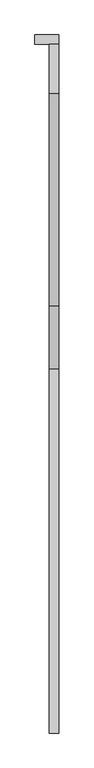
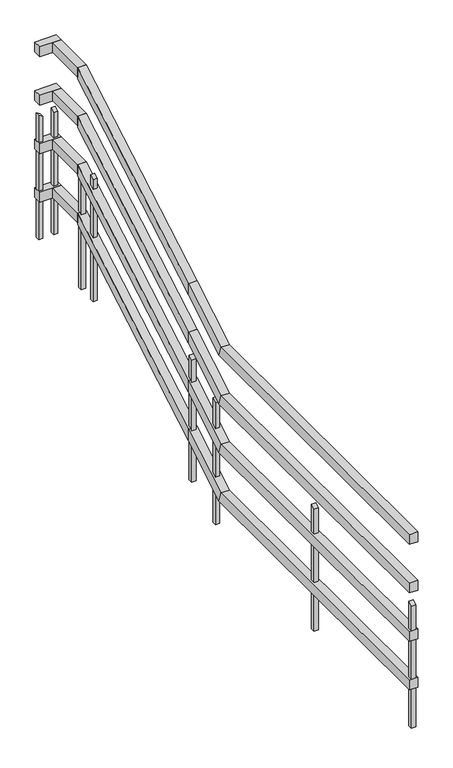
"""IFC4 building model written with IfcOpenShell, lengths in millimetres: railing geometry, RL780-금속재 난간."""

from ifc_helpers import new_model, si_unit, frame, origin, place, context, project, spatial, polyline, outline, extrude, faceted_brep, source, transform, mapped, element, save


def railing_fc631ef0(model_context):
    return source(origin(), model_context, "Body", "SolidModel", [
        faceted_brep([(1375.2430136, 1560.0, 1150.0), (1375.2430136, 1560.0, 1090.0), (1425.2430136, 1560.0, 1090.0), (1425.2430136, 1560.0, 1150.0), (1375.2430136, 3470.0, 1150.0), (1375.2430136, 3486.2899034, 1090.0), (1425.2430136, 3486.2899034, 1090.0), (1425.2430136, 3470.0, 1150.0), (1375.2430136, 3800.0, 1343.4482759), (1425.2430136, 3800.0, 1343.4482759), (1425.2430136, 3800.0, 1273.8990221), (1375.2430136, 3800.0, 1273.8990221)], [[[0, 1, 2, 3]], [[1, 0, 4, 5]], [[2, 1, 5, 6]], [[3, 2, 6, 7]], [[0, 3, 7, 4]], [[8, 9, 10, 11]], [[5, 4, 8, 11]], [[6, 5, 11, 10]], [[7, 6, 10, 9]], [[4, 7, 9, 8]]]),
        faceted_brep([(1375.2430136, 3800.0, 1343.4482759), (1375.2430136, 3800.0, 1273.8990221), (1425.2430136, 3800.0, 1273.8990221), (1425.2430136, 3800.0, 1343.4482759), (1375.2430136, 4920.0, 2000.0), (1425.2430136, 4920.0, 2000.0), (1425.2430136, 4920.0, 1930.4507463), (1375.2430136, 4920.0, 1930.4507463)], [[[0, 1, 2, 3]], [[4, 5, 6, 7]], [[1, 0, 4, 7]], [[2, 1, 7, 6]], [[3, 2, 6, 5]], [[0, 3, 5, 4]]]),
        faceted_brep([(1375.2430136, 4920.0, 2000.0), (1375.2430136, 4920.0, 1940.0), (1425.2430136, 4920.0, 1940.0), (1425.2430136, 4920.0, 2000.0), (1375.2430136, 5175.0, 2000.0), (1425.2430136, 5175.0, 2000.0), (1425.2430136, 5175.0, 1940.0), (1375.2430136, 5175.0, 1940.0)], [[[0, 1, 2, 3]], [[4, 5, 6, 7]], [[1, 0, 4, 7]], [[2, 1, 7, 6]], [[3, 2, 6, 5]], [[0, 3, 5, 4]]]),
        faceted_brep([(1425.2430136, 5175.0, 2000.0), (1425.2430136, 5175.0, 1940.0), (1425.2430136, 5225.0, 1940.0), (1425.2430136, 5225.0, 2000.0), (1299.7569864, 5175.0, 2000.0), (1299.7569864, 5225.0, 2000.0), (1299.7569864, 5225.0, 1940.0), (1299.7569864, 5175.0, 1940.0)], [[[0, 1, 2, 3]], [[4, 5, 6, 7]], [[1, 0, 4, 7]], [[2, 1, 7, 6]], [[3, 2, 6, 5]], [[0, 3, 5, 4]]]),
        faceted_brep([(1375.2430136, 1560.0, 850.0), (1375.2430136, 1560.0, 790.0), (1425.2430136, 1560.0, 790.0), (1425.2430136, 1560.0, 850.0), (1375.2430136, 3470.0, 850.0), (1375.2430136, 3486.2899034, 790.0), (1425.2430136, 3486.2899034, 790.0), (1425.2430136, 3470.0, 850.0), (1375.2430136, 3800.0, 1043.4482759), (1425.2430136, 3800.0, 1043.4482759), (1425.2430136, 3800.0, 973.8990221), (1375.2430136, 3800.0, 973.8990221)], [[[0, 1, 2, 3]], [[1, 0, 4, 5]], [[2, 1, 5, 6]], [[3, 2, 6, 7]], [[0, 3, 7, 4]], [[8, 9, 10, 11]], [[5, 4, 8, 11]], [[6, 5, 11, 10]], [[7, 6, 10, 9]], [[4, 7, 9, 8]]]),
        faceted_brep([(1375.2430136, 3800.0, 1043.4482759), (1375.2430136, 3800.0, 973.8990221), (1425.2430136, 3800.0, 973.8990221), (1425.2430136, 3800.0, 1043.4482759), (1375.2430136, 4920.0, 1700.0), (1425.2430136, 4920.0, 1700.0), (1425.2430136, 4920.0, 1630.4507463), (1375.2430136, 4920.0, 1630.4507463)], [[[0, 1, 2, 3]], [[4, 5, 6, 7]], [[1, 0, 4, 7]], [[2, 1, 7, 6]], [[3, 2, 6, 5]], [[0, 3, 5, 4]]]),
        faceted_brep([(1375.2430136, 4920.0, 1700.0), (1375.2430136, 4920.0, 1640.0), (1425.2430136, 4920.0, 1640.0), (1425.2430136, 4920.0, 1700.0), (1375.2430136, 5175.0, 1700.0), (1425.2430136, 5175.0, 1700.0), (1425.2430136, 5175.0, 1640.0), (1375.2430136, 5175.0, 1640.0)], [[[0, 1, 2, 3]], [[4, 5, 6, 7]], [[1, 0, 4, 7]], [[2, 1, 7, 6]], [[3, 2, 6, 5]], [[0, 3, 5, 4]]]),
        faceted_brep([(1425.2430136, 5175.0, 1700.0), (1425.2430136, 5175.0, 1640.0), (1425.2430136, 5225.0, 1640.0), (1425.2430136, 5225.0, 1700.0), (1299.7569864, 5175.0, 1700.0), (1299.7569864, 5225.0, 1700.0), (1299.7569864, 5225.0, 1640.0), (1299.7569864, 5175.0, 1640.0)], [[[0, 1, 2, 3]], [[4, 5, 6, 7]], [[1, 0, 4, 7]], [[2, 1, 7, 6]], [[3, 2, 6, 5]], [[0, 3, 5, 4]]]),
        faceted_brep([(1375.2430136, 1560.0, 550.0), (1375.2430136, 1560.0, 490.0), (1425.2430136, 1560.0, 490.0), (1425.2430136, 1560.0, 550.0), (1375.2430136, 3470.0, 550.0), (1375.2430136, 3486.2899034, 490.0), (1425.2430136, 3486.2899034, 490.0), (1425.2430136, 3470.0, 550.0), (1375.2430136, 3800.0, 743.4482759), (1425.2430136, 3800.0, 743.4482759), (1425.2430136, 3800.0, 673.8990221), (1375.2430136, 3800.0, 673.8990221)], [[[0, 1, 2, 3]], [[1, 0, 4, 5]], [[2, 1, 5, 6]], [[3, 2, 6, 7]], [[0, 3, 7, 4]], [[8, 9, 10, 11]], [[5, 4, 8, 11]], [[6, 5, 11, 10]], [[7, 6, 10, 9]], [[4, 7, 9, 8]]]),
        faceted_brep([(1375.2430136, 3800.0, 743.4482759), (1375.2430136, 3800.0, 673.8990221), (1425.2430136, 3800.0, 673.8990221), (1425.2430136, 3800.0, 743.4482759), (1375.2430136, 4920.0, 1400.0), (1425.2430136, 4920.0, 1400.0), (1425.2430136, 4920.0, 1330.4507463), (1375.2430136, 4920.0, 1330.4507463)], [[[0, 1, 2, 3]], [[4, 5, 6, 7]], [[1, 0, 4, 7]], [[2, 1, 7, 6]], [[3, 2, 6, 5]], [[0, 3, 5, 4]]]),
        faceted_brep([(1375.2430136, 4920.0, 1400.0), (1375.2430136, 4920.0, 1340.0), (1425.2430136, 4920.0, 1340.0), (1425.2430136, 4920.0, 1400.0), (1375.2430136, 5175.0, 1400.0), (1425.2430136, 5175.0, 1400.0), (1425.2430136, 5175.0, 1340.0), (1375.2430136, 5175.0, 1340.0)], [[[0, 1, 2, 3]], [[4, 5, 6, 7]], [[1, 0, 4, 7]], [[2, 1, 7, 6]], [[3, 2, 6, 5]], [[0, 3, 5, 4]]]),
        faceted_brep([(1425.2430136, 5175.0, 1400.0), (1425.2430136, 5175.0, 1340.0), (1425.2430136, 5225.0, 1340.0), (1425.2430136, 5225.0, 1400.0), (1299.7569864, 5175.0, 1400.0), (1299.7569864, 5225.0, 1400.0), (1299.7569864, 5225.0, 1340.0), (1299.7569864, 5175.0, 1340.0)], [[[0, 1, 2, 3]], [[4, 5, 6, 7]], [[1, 0, 4, 7]], [[2, 1, 7, 6]], [[3, 2, 6, 5]], [[0, 3, 5, 4]]]),
        faceted_brep([(1375.2430136, 1560.0, 250.0), (1375.2430136, 1560.0, 190.0), (1425.2430136, 1560.0, 190.0), (1425.2430136, 1560.0, 250.0), (1375.2430136, 3470.0, 250.0), (1375.2430136, 3486.2899034, 190.0), (1425.2430136, 3486.2899034, 190.0), (1425.2430136, 3470.0, 250.0), (1375.2430136, 3800.0, 443.4482759), (1425.2430136, 3800.0, 443.4482759), (1425.2430136, 3800.0, 373.8990221), (1375.2430136, 3800.0, 373.8990221)], [[[0, 1, 2, 3]], [[1, 0, 4, 5]], [[2, 1, 5, 6]], [[3, 2, 6, 7]], [[0, 3, 7, 4]], [[8, 9, 10, 11]], [[5, 4, 8, 11]], [[6, 5, 11, 10]], [[7, 6, 10, 9]], [[4, 7, 9, 8]]]),
        faceted_brep([(1375.2430136, 3800.0, 443.4482759), (1375.2430136, 3800.0, 373.8990221), (1425.2430136, 3800.0, 373.8990221), (1425.2430136, 3800.0, 443.4482759), (1375.2430136, 4920.0, 1100.0), (1425.2430136, 4920.0, 1100.0), (1425.2430136, 4920.0, 1030.4507463), (1375.2430136, 4920.0, 1030.4507463)], [[[0, 1, 2, 3]], [[4, 5, 6, 7]], [[1, 0, 4, 7]], [[2, 1, 7, 6]], [[3, 2, 6, 5]], [[0, 3, 5, 4]]]),
        faceted_brep([(1375.2430136, 4920.0, 1100.0), (1375.2430136, 4920.0, 1040.0), (1425.2430136, 4920.0, 1040.0), (1425.2430136, 4920.0, 1100.0), (1375.2430136, 5175.0, 1100.0), (1425.2430136, 5175.0, 1100.0), (1425.2430136, 5175.0, 1040.0), (1375.2430136, 5175.0, 1040.0)], [[[0, 1, 2, 3]], [[4, 5, 6, 7]], [[1, 0, 4, 7]], [[2, 1, 7, 6]], [[3, 2, 6, 5]], [[0, 3, 5, 4]]]),
        faceted_brep([(1425.2430136, 5175.0, 1100.0), (1425.2430136, 5175.0, 1040.0), (1425.2430136, 5225.0, 1040.0), (1425.2430136, 5225.0, 1100.0), (1299.7569864, 5175.0, 1100.0), (1299.7569864, 5225.0, 1100.0), (1299.7569864, 5225.0, 1040.0), (1299.7569864, 5175.0, 1040.0)], [[[0, 1, 2, 3]], [[4, 5, 6, 7]], [[1, 0, 4, 7]], [[2, 1, 7, 6]], [[3, 2, 6, 5]], [[0, 3, 5, 4]]]),
        extrude(outline(polyline([(4787.5, 1384.04582), (4812.5, 1399.95418), (4812.5, 630.0), (4787.5, 630.0), (4787.5, 1384.04582)])), frame((1387.7430136, 0.0, 0.0), z_axis=(1.0, 0.0, 0.0), x_axis=(0.0, 1.0, 0.0)), (0.0, 0.0, 1.0), 25.0),
        extrude(outline(polyline([(3547.5, 756.8044407), (3572.5, 772.7128007), (3572.5, 2.7586207), (3547.5, 2.7586207), (3547.5, 756.8044407)])), frame((1387.7430136, 0.0, 0.0), z_axis=(1.0, 0.0, 0.0), x_axis=(0.0, 1.0, 0.0)), (0.0, 0.0, 1.0), 25.0),
        extrude(outline(polyline([(2547.5, 704.04582), (2572.5, 719.95418), (2572.5, -50.0), (2547.5, -50.0), (2547.5, 704.04582)])), frame((1387.7430136, 0.0, 0.0), z_axis=(1.0, 0.0, 0.0), x_axis=(0.0, 1.0, 0.0)), (0.0, 0.0, 1.0), 25.0),
        extrude(outline(polyline([(5187.5, 1554.04582), (5212.5, 1569.95418), (5212.5, 800.0), (5187.5, 800.0), (5187.5, 1554.04582)])), frame((1387.7430136, 0.0, 0.0), z_axis=(1.0, 0.0, 0.0), x_axis=(0.0, 1.0, 0.0)), (0.0, 0.0, 1.0), 25.0),
        extrude(outline(polyline([(4907.5, 1384.04582), (4932.5, 1399.95418), (4932.5, 630.0), (4907.5, 630.0), (4907.5, 1384.04582)])), frame((1387.7430136, 0.0, 0.0), z_axis=(1.0, 0.0, 0.0), x_axis=(0.0, 1.0, 0.0)), (0.0, 0.0, 1.0), 25.0),
        extrude(outline(polyline([(3787.5, 874.04582), (3812.5, 889.95418), (3812.5, 120.0), (3787.5, 120.0), (3787.5, 874.04582)])), frame((1387.7430136, 0.0, 0.0), z_axis=(1.0, 0.0, 0.0), x_axis=(0.0, 1.0, 0.0)), (0.0, 0.0, 1.0), 25.0),
        extrude(outline(polyline([(1554.04582, 1324.7569864), (1569.95418, 1299.7569864), (800.0, 1299.7569864), (800.0, 1324.7569864), (1554.04582, 1324.7569864)])), frame((0.0, 5187.5, 0.0), z_axis=(0.0, 1.0, 0.0), x_axis=(0.0, 0.0, 1.0)), (0.0, 0.0, 1.0), 25.0),
        extrude(outline(polyline([(1560.0, 704.04582), (1585.0, 719.95418), (1585.0, -50.0), (1560.0, -50.0), (1560.0, 704.04582)])), frame((1387.7430136, 0.0, 0.0), z_axis=(1.0, 0.0, 0.0), x_axis=(0.0, 1.0, 0.0)), (0.0, 0.0, 1.0), 25.0),
    ])


if __name__ == "__main__":
    model = new_model("IFC4")
    model_context = context("Model", 3, world=origin())
    ifc_project = project(units=[si_unit("LENGTHUNIT", "METRE", prefix="MILLI")], contexts=[model_context])
    site = spatial("IfcSite", under=ifc_project)
    building = spatial("IfcBuilding", under=site)
    placement = place(None, origin())
    railing_shape = railing_fc631ef0(model_context)
    element("IfcRailing", 1, ObjectType="RL780-금속재 난간", at=placement, inside=building, context=model_context, shape_type="MappedRepresentation", body=[
        mapped(railing_shape, transform((0.0, 0.0, 0.0), x_axis=(1.0, 0.0, 0.0), y_axis=(0.0, 1.0, 0.0), z_axis=(0.0, 0.0, 1.0))),
    ])
    save(model, "model.ifc")
